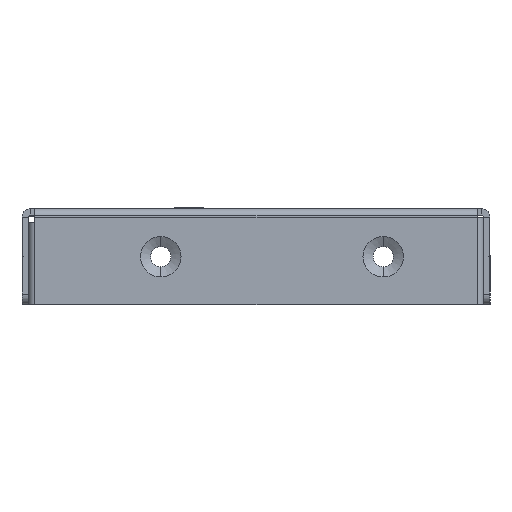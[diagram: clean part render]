
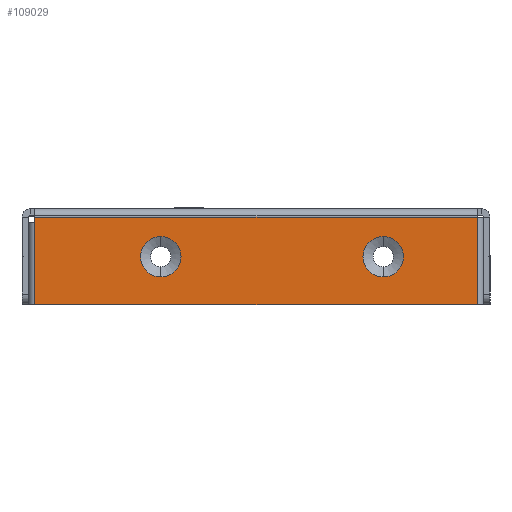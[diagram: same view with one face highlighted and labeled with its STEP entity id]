
A CAD part, left-side view. The second image highlights one B-rep face of the part: STEP entity #109029.
In plain terms, the highlighted planar face has unit normal (-1, 0, 0).
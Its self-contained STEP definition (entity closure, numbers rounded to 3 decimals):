
#41730=DIRECTION('',(0.,-1.,0.));
#41731=VECTOR('',#41730,82.9);
#41732=CARTESIAN_POINT('',(-218.,85.3,-1.6));
#41733=LINE('',#41732,#41731);
#41748=DIRECTION('',(0.,0.,1.));
#41749=VECTOR('',#41748,1.);
#41750=CARTESIAN_POINT('',(-218.,85.3,-2.6));
#41751=LINE('',#41750,#41749);
#41752=CARTESIAN_POINT('',(-218.,61.7,-9.));
#41753=DIRECTION('',(1.,0.,0.));
#41754=DIRECTION('',(0.,0.,-1.));
#41755=AXIS2_PLACEMENT_3D('',#41752,#41753,#41754);
#41757=CARTESIAN_POINT('',(-218.,61.7,-9.));
#41758=DIRECTION('',(1.,0.,0.));
#41759=DIRECTION('',(0.,0.,1.));
#41760=AXIS2_PLACEMENT_3D('',#41757,#41758,#41759);
#41762=CARTESIAN_POINT('',(-218.,20.,-9.));
#41763=DIRECTION('',(1.,0.,0.));
#41764=DIRECTION('',(0.,0.,-1.));
#41765=AXIS2_PLACEMENT_3D('',#41762,#41763,#41764);
#41767=CARTESIAN_POINT('',(-218.,20.,-9.));
#41768=DIRECTION('',(1.,0.,0.));
#41769=DIRECTION('',(0.,0.,1.));
#41770=AXIS2_PLACEMENT_3D('',#41767,#41768,#41769);
#41793=DIRECTION('',(0.,0.,1.));
#41794=VECTOR('',#41793,15.4);
#41795=CARTESIAN_POINT('',(-218.,85.3,-18.));
#41796=LINE('',#41795,#41794);
#41912=DIRECTION('',(0.,1.,0.));
#41913=VECTOR('',#41912,82.9);
#41914=CARTESIAN_POINT('',(-218.,2.4,-18.));
#41915=LINE('',#41914,#41913);
#42067=DIRECTION('',(0.,0.,-1.));
#42068=VECTOR('',#42067,16.4);
#42069=CARTESIAN_POINT('',(-218.,2.4,-1.6));
#42070=LINE('',#42069,#42068);
#63042=CARTESIAN_POINT('',(-218.,85.3,-1.6));
#63044=VERTEX_POINT('',#63042);
#63058=CARTESIAN_POINT('',(-218.,2.4,-1.6));
#63060=VERTEX_POINT('',#63058);
#63466=CARTESIAN_POINT('',(-218.,61.7,-12.8));
#63467=CARTESIAN_POINT('',(-218.,61.7,-5.2));
#63468=VERTEX_POINT('',#63466);
#63469=VERTEX_POINT('',#63467);
#63474=CARTESIAN_POINT('',(-218.,20.,-12.8));
#63475=CARTESIAN_POINT('',(-218.,20.,-5.2));
#63476=VERTEX_POINT('',#63474);
#63477=VERTEX_POINT('',#63475);
#63494=CARTESIAN_POINT('',(-218.,2.4,-18.));
#63495=CARTESIAN_POINT('',(-218.,85.3,-18.));
#63496=VERTEX_POINT('',#63494);
#63497=VERTEX_POINT('',#63495);
#63508=CARTESIAN_POINT('',(-218.,85.3,-2.6));
#63509=VERTEX_POINT('',#63508);
#109001=CARTESIAN_POINT('',(-218.,2.4,0.));
#109002=DIRECTION('',(1.,0.,0.));
#109003=DIRECTION('',(0.,-1.,0.));
#109004=AXIS2_PLACEMENT_3D('',#109001,#109002,#109003);
#109005=PLANE('',#109004);
#109007=ORIENTED_EDGE('',*,*,#109006,.T.);
#109008=ORIENTED_EDGE('',*,*,#108992,.T.);
#109010=ORIENTED_EDGE('',*,*,#109009,.T.);
#109012=ORIENTED_EDGE('',*,*,#109011,.T.);
#109014=ORIENTED_EDGE('',*,*,#109013,.T.);
#109015=EDGE_LOOP('',(#109007,#109008,#109010,#109012,#109014));
#109016=FACE_OUTER_BOUND('',#109015,.F.);
#109018=ORIENTED_EDGE('',*,*,#109017,.F.);
#109020=ORIENTED_EDGE('',*,*,#109019,.F.);
#109021=EDGE_LOOP('',(#109018,#109020));
#109022=FACE_BOUND('',#109021,.F.);
#109024=ORIENTED_EDGE('',*,*,#109023,.F.);
#109026=ORIENTED_EDGE('',*,*,#109025,.F.);
#109027=EDGE_LOOP('',(#109024,#109026));
#109028=FACE_BOUND('',#109027,.F.);
#109029=ADVANCED_FACE('',(#109016,#109022,#109028),#109005,.F.);
#41756=CIRCLE('',#41755,3.8);
#41761=CIRCLE('',#41760,3.8);
#41766=CIRCLE('',#41765,3.8);
#41771=CIRCLE('',#41770,3.8);
#108992=EDGE_CURVE('',#63044,#63060,#41733,.T.);
#109006=EDGE_CURVE('',#63509,#63044,#41751,.T.);
#109009=EDGE_CURVE('',#63060,#63496,#42070,.T.);
#109011=EDGE_CURVE('',#63496,#63497,#41915,.T.);
#109013=EDGE_CURVE('',#63497,#63509,#41796,.T.);
#109017=EDGE_CURVE('',#63468,#63469,#41756,.T.);
#109019=EDGE_CURVE('',#63469,#63468,#41761,.T.);
#109023=EDGE_CURVE('',#63476,#63477,#41766,.T.);
#109025=EDGE_CURVE('',#63477,#63476,#41771,.T.);
